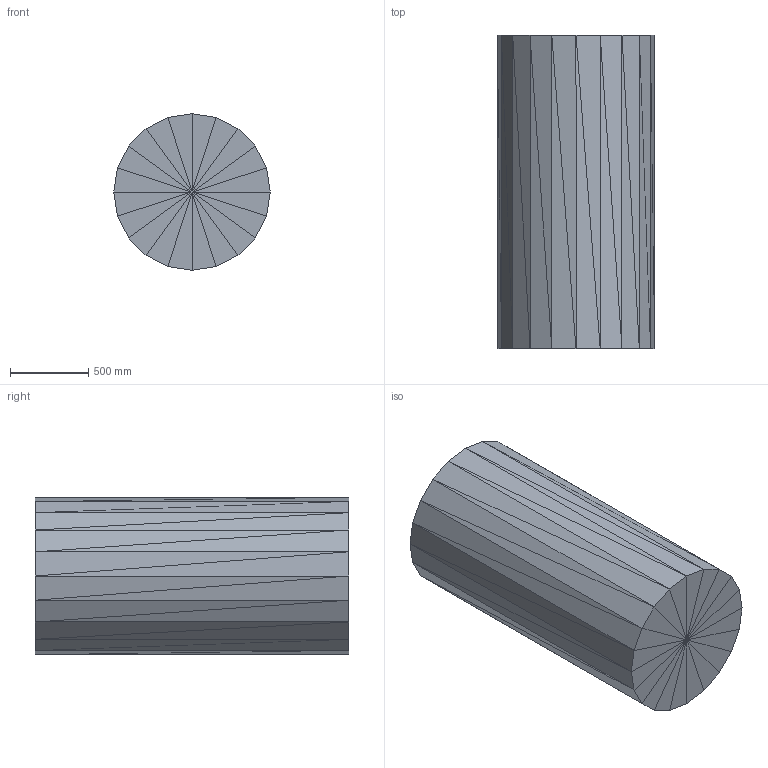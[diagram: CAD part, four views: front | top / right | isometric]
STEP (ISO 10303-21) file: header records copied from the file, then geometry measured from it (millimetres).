
FILE_DESCRIPTION(('CAx-IF Rec.Pracs.---Model Styling and Organization---1.5---2016-08-15','CAx-IF Rec.Pracs.---Geometric and Assembly Validation Properties---4.4---2016-08-17','CAx-IF Rec.Pracs.---User Defined Attributes---1.5---2016-08-15','CAx-IF Rec.Pracs.---External References---2.1---2005-01-19'),'2;1');
FILE_NAME('Cylinder.STEP','2021-11-03T16:17:56',('Unspecified'),('Unspecified'),'CAD Exchanger 3.10.1 (cadexchanger.com)','Unspecified','');
FILE_SCHEMA(('AUTOMOTIVE_DESIGN { 1 0 10303 214 1 1 1 1 }'));
Length unit declared in the file: millimetre
Products named in the file (2): Cylinder
Assembly tree (1 placements, depth 2):
  (unnamed)
    Cylinder
Bounding box: 1000 x 2000 x 1000 mm (x, y, z)
Surface area: 7802466.2 mm2 (no closed solid volume)
Topology: 0 solids, 80 shells, 80 faces, 240 edges, 240 vertices
Faces by surface type: plane 80
Entity records: 922 total; most frequent: CARTESIAN_POINT 322, DIRECTION 164, AXIS2_PLACEMENT_3D 82, FACE_SURFACE 80, FACE_OUTER_BOUND 80, POLY_LOOP 80, PLANE 80, PRODUCT_DEFINITION_SHAPE 3
